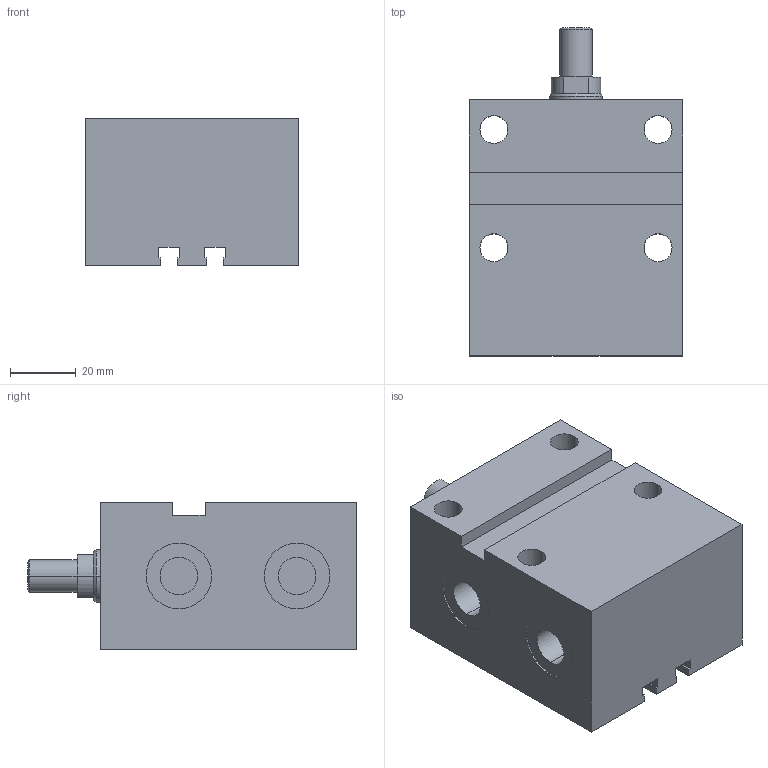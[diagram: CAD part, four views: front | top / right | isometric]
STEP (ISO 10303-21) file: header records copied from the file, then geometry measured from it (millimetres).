
FILE_DESCRIPTION (( 'STEP AP203' ), '1' );
FILE_NAME ('GERMA_Blockzylinder_701-025-020-A.STEP', '2016-08-01T16:59:55', ( '' ), ( '' ), 'SwSTEP 2.0', 'SolidWorks 2015', '' );
FILE_SCHEMA (( 'CONFIG_CONTROL_DESIGN' ));
Length unit declared in the file: millimetre
Products named in the file (3): GERMA_Blockzylinder_701-025-020-A; Kolben_MT 70x-025_Kolben_MT DU.25-Hub20-AG; GH-700-025_GH-701-025-020
Assembly tree (2 placements, depth 2):
  GERMA_Blockzylinder_701-025-020-A
    GH-700-025_GH-701-025-020
    Kolben_MT 70x-025_Kolben_MT DU.25-Hub20-AG
Bounding box: 65 x 100 x 45 mm (x, y, z)
Volume: 203344.8 mm3; surface area: 41320.6 mm2
Topology: 2 solids, 2 shells, 92 faces, 216 edges, 137 vertices
Faces by surface type: plane 43, cylinder 37, cone 12
Entity records: 2938 total; most frequent: DIRECTION 491, CARTESIAN_POINT 446, ORIENTED_EDGE 424, EDGE_CURVE 212, AXIS2_PLACEMENT_3D 182, VERTEX_POINT 137, LINE 127, VECTOR 127
